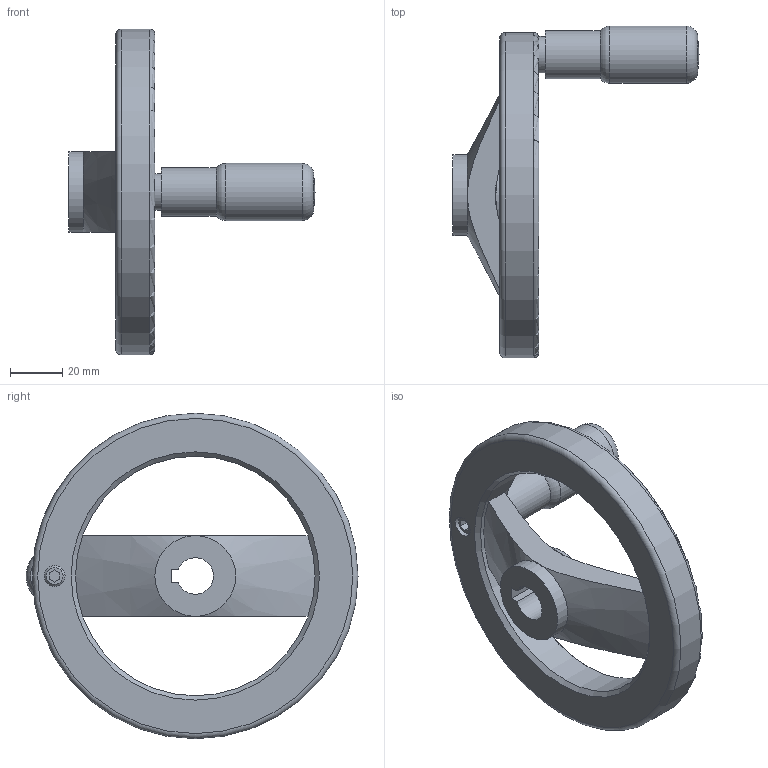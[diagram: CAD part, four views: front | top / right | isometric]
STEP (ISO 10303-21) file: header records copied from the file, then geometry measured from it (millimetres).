
FILE_DESCRIPTION( ( 'STEP AP203' ), '1' );
FILE_NAME( 'C:/Temp/Ganter_Step_05_03_2020/data/1_3/gn_324/gn_324_k/gn_324_k_d/Handwheel, matt black GN 324-125-K14-R.stp', '2020-03-05T10:33:02', ( 'License CC BY-ND 4.0' ), ( 'CADENAS' ), ' ', 'PARTsolutions', ' ' );
FILE_SCHEMA( ( 'CONFIG_CONTROL_DESIGN' ) );
Length unit declared in the file: millimetre
Products named in the file (1): _Handwheel, matt black GN 324-125-K14-R
Bounding box: 94.5 x 127.5 x 125 mm (x, y, z)
Volume: 133471.6 mm3; surface area: 33221.8 mm2
Topology: 1 solids, 2 shells, 44 faces, 102 edges, 62 vertices
Faces by surface type: plane 20, cylinder 11, cone 8, torus 4, sphere 1
Full cylindrical faces by diameter (mm): 6.446 x1, 8 x2, 14 x1, 18.5 x1, 22 x1, 31 x2, 92 x1, 125 x1
Entity records: 1276 total; most frequent: CARTESIAN_POINT 319, DIRECTION 196, ORIENTED_EDGE 154, AXIS2_PLACEMENT_3D 82, EDGE_CURVE 77, EDGE_LOOP 71, FACE_OUTER_BOUND 58, VERTEX_POINT 57
